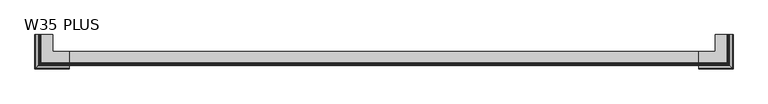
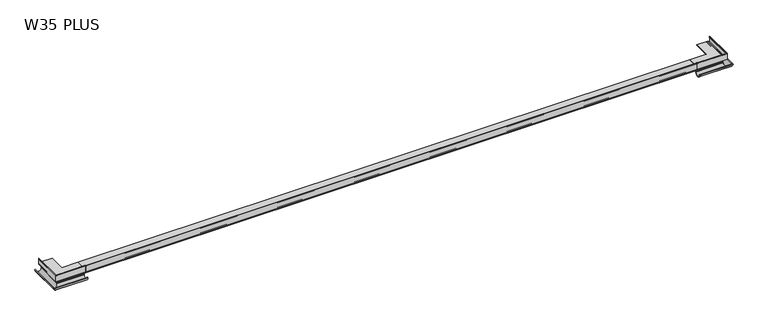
"""IFC4 building model written with IfcOpenShell, lengths in millimetres: proxy geometry, W35 PLUS Profil okapowy prosty z rynną : W35 PLUS."""

from ifc_helpers import new_model, si_unit, point, frame, frame_2d, origin, place, context, project, spatial, polyline, circle_curve, ellipse_curve, trimmed, segment, composite_curve, outline, extrude, source, transform, mapped, element, save
from ifc_brep_helpers import plane_surface, cylinder_surface, revolved_surface, advanced_brep


def w35_plus_573f0110(model_context):
    return source(origin(), model_context, "Body", "SolidModel", [
        advanced_brep(
        [(4906.833631, -6.5000001, -74.4470452), (4906.833631, -5.0999988, -73.0470438), (4906.833631, -5.0999988, -78.1662981), (4906.833631, -7.6128151, -80.5111711), (4906.833631, -8.1261224, -84.1635409), (4906.833631, -4.8412617, -82.7692004), (4906.833631, -5.621057, -84.7176262), (4906.833631, -8.427087, -86.3030013), (4906.833631, -58.1999995, -82.9410366), (4906.833631, -56.7240776, -84.8325307), (4906.833631, -9.7348852, -85.4606424), (4906.833631, -8.8685397, -79.7069515), (4906.833631, -6.5000001, -77.4112902), (5114.9597534, -8.1261224, -84.1635409), (5111.6748927, -4.8412617, -82.7692004), (5112.454688, -5.621057, -84.7176262), (5115.260718, -8.427087, -86.3030013), (5165.0336305, -58.1999995, -82.9410366), (5163.5577086, -56.7240776, -84.8325307), (5116.5685163, -9.7348852, -85.4606424), (5115.7021707, -8.8685397, -79.7069515), (5114.4464461, -7.6128151, -80.5111711), (5113.3336312, 200.0, -74.4470452), (5113.3336312, 200.0, -77.4112902), (5115.7021707, 200.0, -79.7069515), (5116.5685163, 200.0, -85.4606424), (5163.5577086, 200.0, -84.8325307), (5165.0336305, 200.0, -82.9410366), (5115.260718, 200.0, -86.3030013), (5112.454688, 200.0, -84.7176262), (5111.6748927, 200.0, -82.7692004), (5114.9597534, 200.0, -84.1635409), (5114.4464461, 200.0, -80.5111711), (5111.9336298, 200.0, -78.1662981), (5111.9336298, 200.0, -73.0470438), (5113.3336312, -6.5000001, -74.4470452), (5111.9336298, -5.0999988, -73.0470438), (5111.9336298, -5.0999988, -78.1662981), (5113.3336312, -6.5000001, -77.4112902)],
        [
            (0, 1),
            (1, 2),
            (2, 3),
            (3, 4),
            (4, 5),
            (5, 6),
            (6, 7),
            (7, 8, circle_curve(frame((4906.833631, -33.1999995, -82.9410366), z_axis=(-1.0, 0.0, 0.0), x_axis=(0.0, -1.0, 0.0)), 25.0)),
            (8, 9, circle_curve(frame((4906.833631, -56.2499995, -82.9410366), z_axis=(-1.0, 0.0, 0.0), x_axis=(0.0, -1.0, 0.0)), 1.95)),
            (9, 10, circle_curve(frame((4906.833631, -33.1999995, -82.9410366), z_axis=(1.0, 0.0, 0.0), x_axis=(0.0, -1.0, 0.0)), 23.6)),
            (10, 11),
            (11, 12),
            (12, 0),
            (4, 13),
            (13, 14),
            (14, 5),
            (14, 15),
            (15, 6),
            (15, 16),
            (16, 7),
            (16, 17, ellipse_curve(frame((5140.0336305, -33.1999995, -82.9410366), z_axis=(-0.7071067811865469, -0.707106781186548, 0.0), x_axis=(-0.7071067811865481, 0.7071067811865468, 0.0)), 35.3553391, 25.0)),
            (17, 8),
            (17, 18, ellipse_curve(frame((5163.0836305, -56.2499995, -82.9410366), z_axis=(-0.7071067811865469, -0.707106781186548, 0.0), x_axis=(-0.7071067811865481, 0.7071067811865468, 0.0)), 2.7577164, 1.95)),
            (18, 9),
            (18, 19, ellipse_curve(frame((5140.0336305, -33.1999995, -82.9410366), z_axis=(0.7071067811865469, 0.707106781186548, 0.0), x_axis=(0.7071067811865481, -0.7071067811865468, 0.0)), 33.3754401, 23.6)),
            (19, 10),
            (19, 20),
            (20, 11),
            (3, 21),
            (21, 13),
            (22, 23),
            (23, 24),
            (24, 25),
            (25, 26, circle_curve(frame((5140.0336305, 200.0, -82.9410366), z_axis=(0.0, -1.0, 0.0), x_axis=(1.0, 0.0, 0.0)), 23.6)),
            (26, 27, circle_curve(frame((5163.0836305, 200.0, -82.9410366), z_axis=(0.0, 1.0, 0.0), x_axis=(1.0, 0.0, 0.0)), 1.95)),
            (27, 28, circle_curve(frame((5140.0336305, 200.0, -82.9410366), z_axis=(0.0, 1.0, 0.0), x_axis=(1.0, 0.0, 0.0)), 25.0)),
            (28, 29),
            (29, 30),
            (30, 31),
            (31, 32),
            (32, 33),
            (33, 34),
            (34, 22),
            (13, 31),
            (30, 14),
            (29, 15),
            (28, 16),
            (27, 17),
            (26, 18),
            (25, 19),
            (24, 20),
            (21, 32),
            (0, 35),
            (35, 36),
            (36, 1),
            (36, 37),
            (37, 2),
            (37, 21),
            (20, 38),
            (38, 12),
            (38, 35),
            (35, 22),
            (34, 36),
            (33, 37),
            (23, 38),
        ],
        [
            plane_surface(frame((4906.833631, 0.0, -36.1934933), z_axis=(-1.0, 0.0, 0.0), x_axis=(0.0, 0.0, 1.0))),
            plane_surface(frame((4906.833631, -4.8412617, -82.7692004), z_axis=(0.0, -0.3907310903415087, 0.9205048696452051), x_axis=(1.0, 0.0, 0.0))),
            plane_surface(frame((4906.833631, -5.621057, -84.7176262), z_axis=(0.0, 0.9284068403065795, -0.37156525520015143), x_axis=(1.0, 0.0, 0.0))),
            plane_surface(frame((4906.833631, -8.427087, -86.3030013), z_axis=(0.0, 0.49190631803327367, -0.8706481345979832), x_axis=(1.0, 0.0, 0.0))),
            cylinder_surface(frame((4906.833631, -33.1999995, -82.9410366), z_axis=(-1.0, 0.0, 0.0), x_axis=(0.0, -1.0, 0.0)), 25.0),
            cylinder_surface(frame((4906.833631, -56.2499995, -82.9410366), z_axis=(-1.0, 0.0, 0.0), x_axis=(0.0, -1.0, 0.0)), 1.95),
            revolved_surface(polyline([(5163.633630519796, -56.7999995, -82.9410366), (4906.833631, -56.7999995, -82.9410366)]), (4906.833631, -33.1999995, -82.9410366), (1.0, 0.0, 0.0)),
            plane_surface(frame((4906.833631, -8.8685397, -79.7069515), z_axis=(0.0, -0.9888532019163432, 0.14889373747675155), x_axis=(1.0, 0.0, 0.0))),
            plane_surface(frame((4906.833631, -8.1261224, -84.1635409), z_axis=(0.0, 0.9902680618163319, -0.13917315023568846), x_axis=(1.0, 0.0, 0.0))),
            plane_surface(frame((5106.833631, 200.0, -36.1934933), z_axis=(0.0, 1.0, 0.0), x_axis=(0.0, 0.0, 1.0))),
            plane_surface(frame((5111.6748927, -4.8412617, -82.7692004), z_axis=(0.3907310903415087, 0.0, 0.9205048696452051), x_axis=(0.0, 1.0, 0.0))),
            plane_surface(frame((5112.454688, -5.621057, -84.7176262), z_axis=(-0.9284068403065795, 0.0, -0.37156525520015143), x_axis=(0.0, 1.0, 0.0))),
            plane_surface(frame((5115.260718, -8.427087, -86.3030013), z_axis=(-0.49190631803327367, 0.0, -0.8706481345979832), x_axis=(0.0, 1.0, 0.0))),
            cylinder_surface(frame((5140.0336305, 0.0, -82.9410366), z_axis=(0.0, -1.0, 0.0), x_axis=(1.0, 0.0, 0.0)), 25.0),
            cylinder_surface(frame((5163.0836305, 0.0, -82.9410366), z_axis=(0.0, -1.0, 0.0), x_axis=(1.0, 0.0, 0.0)), 1.95),
            revolved_surface(polyline([(5163.6336305, 200.0, -82.9410366), (5163.6336305, -56.79999951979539, -82.9410366)]), (5140.0336305, 0.0, -82.9410366), (0.0, 1.0, 0.0)),
            plane_surface(frame((5115.7021707, -8.8685397, -79.7069515), z_axis=(0.9888532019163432, 0.0, 0.14889373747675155), x_axis=(0.0, 1.0, 0.0))),
            plane_surface(frame((5114.9597534, -8.1261224, -84.1635409), z_axis=(-0.9902680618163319, 0.0, -0.13917315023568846), x_axis=(0.0, 1.0, 0.0))),
            plane_surface(frame((4906.833631, -5.0999988, -73.0470438), z_axis=(0.0, -0.7071067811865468, 0.7071067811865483), x_axis=(1.0, 0.0, 0.0))),
            plane_surface(frame((4906.833631, -5.0999988, -78.1662981), z_axis=(0.0, 1.0, 0.0), x_axis=(1.0, 0.0, 0.0))),
            plane_surface(frame((4906.833631, -7.6128151, -80.5111711), z_axis=(0.0, 0.6822525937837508, -0.7311165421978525), x_axis=(1.0, 0.0, 0.0))),
            plane_surface(frame((4906.833631, -6.5000001, -77.4112902), z_axis=(0.0, -0.6959732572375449, 0.7180677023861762), x_axis=(1.0, 0.0, 0.0))),
            plane_surface(frame((4906.833631, -6.5000001, -74.4470452), z_axis=(0.0, -1.0, 0.0), x_axis=(1.0, 0.0, 0.0))),
            plane_surface(frame((5111.9336298, -5.0999988, -73.0470438), z_axis=(0.7071067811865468, 0.0, 0.7071067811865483), x_axis=(0.0, 1.0, 0.0))),
            plane_surface(frame((5111.9336298, -5.0999988, -78.1662981), z_axis=(-1.0, 0.0, 0.0), x_axis=(0.0, 1.0, 0.0))),
            plane_surface(frame((5114.4464461, -7.6128151, -80.5111711), z_axis=(-0.6822525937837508, 0.0, -0.7311165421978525), x_axis=(0.0, 1.0, 0.0))),
            plane_surface(frame((5113.3336312, -6.5000001, -77.4112902), z_axis=(0.6959732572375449, 0.0, 0.7180677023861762), x_axis=(0.0, 1.0, 0.0))),
            plane_surface(frame((5113.3336312, -6.5000001, -74.4470452), z_axis=(1.0, 0.0, 0.0), x_axis=(0.0, 1.0, 0.0))),
        ],
        [
            (0, [[1, 2, 3, 4, 5, 6, 7, 8, 9, 10, 11, 12, 13]]),
            (1, [[14, 15, 16, -5]]),
            (2, [[-16, 17, 18, -6]]),
            (3, [[-18, 19, 20, -7]]),
            (4, [[-20, 21, 22, -8]]),
            (5, [[-22, 23, 24, -9]]),
            (6, [[-24, 25, 26, -10]]),
            (7, [[-26, 27, 28, -11]]),
            (8, [[29, 30, -14, -4]]),
            (9, [[31, 32, 33, 34, 35, 36, 37, 38, 39, 40, 41, 42, 43]]),
            (10, [[44, -39, 45, -15]]),
            (11, [[-45, -38, 46, -17]]),
            (12, [[-46, -37, 47, -19]]),
            (13, [[-47, -36, 48, -21]]),
            (14, [[-48, -35, 49, -23]]),
            (15, [[-49, -34, 50, -25]]),
            (16, [[-50, -33, 51, -27]]),
            (17, [[52, -40, -44, -30]]),
            (18, [[53, 54, 55, -1]]),
            (19, [[-55, 56, 57, -2]]),
            (20, [[-57, 58, -29, -3]]),
            (21, [[-28, 59, 60, -12]]),
            (22, [[-60, 61, -53, -13]]),
            (23, [[62, -43, 63, -54]]),
            (24, [[-63, -42, 64, -56]]),
            (25, [[-64, -41, -52, -58]]),
            (26, [[-51, -32, 65, -59]]),
            (27, [[-65, -31, -62, -61]]),
        ],
    ),
        advanced_brep(
        [(4906.833631, -26.8437498, -2.450713), (4906.833631, -27.5999998, -2.9802449), (4906.833631, -27.5999998, -6.1934933), (4906.833631, -25.0999998, -6.1934933), (4906.833631, -25.0999998, -7.8934933), (4906.833631, -27.5999998, -7.8934933), (4906.833631, -27.5999998, -42.9934932), (4906.833631, -8.1999998, -42.9934932), (4906.833631, -8.1999998, -37.6934933), (4906.833631, -11.2099998, -37.6934933), (4906.833631, -13.6099998, -39.4934933), (4906.833631, -15.1482735, -39.4934933), (4906.833631, -11.2099998, -36.1934933), (4906.833631, 73.5000001, -36.1934933), (4906.833631, 73.5000001, -37.8934933), (4906.833631, 0.0, -37.8934933), (4906.833631, 0.0, -41.0934933), (4906.833631, -1.5, -41.0934933), (4906.833631, -1.5, -37.8934933), (4906.833631, -6.5, -37.8934933), (4906.833631, -6.5, -77.3934933), (4906.833631, -8.1999998, -77.3934933), (4906.833631, -8.1999998, -44.6934934), (4906.833631, -12.8757357, -44.6934934), (4906.833631, -14.8999998, -46.7177573), (4906.833631, -14.8999998, -44.6934933), (4906.833631, -27.7999998, -44.6934933), (4906.833631, -27.7999998, -48.3470467), (4906.833631, -29.2999999, -49.8470466), (4906.833631, -29.2999999, -3.4509103), (4906.833631, -26.8437498, -1.1562238), (5133.6773808, 200.0, -2.450713), (5133.6773808, 200.0, -1.1562238), (5136.1336309, 200.0, -3.4509103), (5136.1336309, 200.0, -49.8470466), (5134.6336308, 200.0, -48.3470467), (5134.6336308, 200.0, -44.6934933), (5121.7336308, 200.0, -44.6934933), (5121.7336308, 200.0, -46.7177573), (5119.7093667, 200.0, -44.6934934), (5115.0336308, 200.0, -44.6934934), (5115.0336308, 200.0, -77.3934933), (5113.333631, 200.0, -77.3934933), (5113.333631, 200.0, -37.8934933), (5108.333631, 200.0, -37.8934933), (5108.333631, 200.0, -41.0934933), (5106.833631, 200.0, -41.0934933), (5106.833631, 200.0, -37.8934933), (5033.3336309, 200.0, -37.8934933), (5033.3336309, 200.0, -36.1934933), (5118.0436308, 200.0, -36.1934933), (5121.9819046, 200.0, -39.4934933), (5120.4436308, 200.0, -39.4934933), (5118.0436308, 200.0, -37.6934933), (5115.0336308, 200.0, -37.6934933), (5115.0336308, 200.0, -42.9934932), (5134.4336308, 200.0, -42.9934932), (5134.4336308, 200.0, -7.8934933), (5131.9336308, 200.0, -7.8934933), (5131.9336308, 200.0, -6.1934933), (5134.4336308, 200.0, -6.1934933), (5134.4336308, 200.0, -2.9802449), (5133.6773808, -26.8437498, -1.1562238), (5133.6773808, -26.8437498, -2.450713), (5136.1336309, -29.2999999, -3.4509103), (5136.1336309, -29.2999999, -49.8470466), (5134.6336308, -27.7999998, -48.3470467), (5134.6336308, -27.7999998, -44.6934933), (5121.7336308, -14.8999998, -44.6934933), (5121.7336308, -14.8999998, -46.7177573), (5119.7093667, -12.8757357, -44.6934934), (5115.0336308, -8.1999998, -44.6934934), (5115.0336308, -8.1999998, -77.3934933), (5113.333631, -6.5, -77.3934933), (5113.333631, -6.5, -37.8934933), (5108.333631, -1.5, -37.8934933), (5108.333631, -1.5, -41.0934933), (5106.833631, 0.0, -41.0934933), (5106.833631, 0.0, -37.8934933), (5033.3336309, 73.5000001, -37.8934933), (5033.3336309, 73.5000001, -36.1934933), (5118.0436308, -11.2099998, -36.1934933), (5121.9819046, -15.1482735, -39.4934933), (5120.4436308, -13.6099998, -39.4934933), (5118.0436308, -11.2099998, -37.6934933), (5115.0336308, -8.1999998, -37.6934933), (5115.0336308, -8.1999998, -42.9934932), (5134.4336308, -27.5999998, -42.9934932), (5134.4336308, -27.5999998, -7.8934933), (5131.9336308, -25.0999998, -7.8934933), (5131.9336308, -25.0999998, -6.1934933), (5134.4336308, -27.5999998, -6.1934933), (5134.4336308, -27.5999998, -2.9802449)],
        [
            (0, 1),
            (1, 2),
            (2, 3),
            (3, 4),
            (4, 5),
            (5, 6),
            (6, 7),
            (7, 8),
            (8, 9),
            (9, 10, circle_curve(frame((4906.833631, -11.2099998, -40.1934933), z_axis=(1.0, 0.0, 0.0), x_axis=(0.0, 0.0, 1.0)), 2.5)),
            (10, 11),
            (11, 12, circle_curve(frame((4906.833631, -11.2099998, -40.1934933), z_axis=(-1.0, 0.0, 0.0), x_axis=(0.0, -0.9715481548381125, 0.2368421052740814)), 4.0)),
            (12, 13),
            (13, 14),
            (14, 15),
            (15, 16),
            (16, 17),
            (17, 18),
            (18, 19),
            (19, 20),
            (20, 21),
            (21, 22),
            (22, 23),
            (23, 24),
            (24, 25),
            (25, 26),
            (26, 27),
            (27, 28),
            (28, 29),
            (29, 30, circle_curve(frame((4906.833631, -26.9999998, -3.4509103), z_axis=(-1.0, 0.0, 0.0), x_axis=(0.0, 1.0, 0.0)), 2.3000001)),
            (30, 0),
            (31, 32),
            (32, 33, circle_curve(frame((5133.8336308, 200.0, -3.4509103), z_axis=(0.0, 1.0, 0.0), x_axis=(-1.0, 0.0, 0.0)), 2.3000001)),
            (33, 34),
            (34, 35),
            (35, 36),
            (36, 37),
            (37, 38),
            (38, 39),
            (39, 40),
            (40, 41),
            (41, 42),
            (42, 43),
            (43, 44),
            (44, 45),
            (45, 46),
            (46, 47),
            (47, 48),
            (48, 49),
            (49, 50),
            (50, 51, circle_curve(frame((5118.0436308, 200.0, -40.1934933), z_axis=(0.0, 1.0, 0.0), x_axis=(0.9715481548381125, 0.0, 0.2368421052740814)), 4.0)),
            (51, 52),
            (52, 53, circle_curve(frame((5118.0436308, 200.0, -40.1934933), z_axis=(0.0, -1.0, 0.0), x_axis=(0.0, 0.0, 1.0)), 2.5)),
            (53, 54),
            (54, 55),
            (55, 56),
            (56, 57),
            (57, 58),
            (58, 59),
            (59, 60),
            (60, 61),
            (61, 31),
            (30, 62),
            (62, 63),
            (63, 0),
            (29, 64),
            (64, 62, ellipse_curve(frame((5133.8336308, -26.9999998, -3.4509103), z_axis=(-0.7071067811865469, -0.707106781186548, 0.0), x_axis=(-0.7071067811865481, 0.7071067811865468, 0.0)), 3.2526913, 2.3000001)),
            (28, 65),
            (65, 64),
            (27, 66),
            (66, 65),
            (26, 67),
            (67, 66),
            (25, 68),
            (68, 37),
            (36, 67),
            (24, 69),
            (69, 68),
            (23, 70),
            (70, 69),
            (22, 71),
            (71, 40),
            (39, 70),
            (21, 72),
            (72, 71),
            (20, 73),
            (73, 42),
            (41, 72),
            (19, 74),
            (74, 73),
            (18, 75),
            (75, 44),
            (43, 74),
            (17, 76),
            (76, 75),
            (16, 77),
            (77, 46),
            (45, 76),
            (15, 78),
            (78, 77),
            (14, 79),
            (79, 48),
            (47, 78),
            (13, 80),
            (80, 79),
            (12, 81),
            (81, 50),
            (49, 80),
            (11, 82),
            (82, 81, ellipse_curve(frame((5118.0436308, -11.2099998, -40.1934933), z_axis=(-0.7071067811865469, -0.707106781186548, 0.0), x_axis=(-0.7071067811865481, 0.7071067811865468, 0.0)), 5.6568542, 4.0)),
            (10, 83),
            (83, 52),
            (51, 82),
            (9, 84),
            (84, 83, ellipse_curve(frame((5118.0436308, -11.2099998, -40.1934933), z_axis=(0.7071067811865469, 0.707106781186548, 0.0), x_axis=(0.7071067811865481, -0.7071067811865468, 0.0)), 3.5355339, 2.5)),
            (8, 85),
            (85, 54),
            (53, 84),
            (7, 86),
            (86, 85),
            (6, 87),
            (87, 56),
            (55, 86),
            (5, 88),
            (88, 87),
            (4, 89),
            (89, 58),
            (57, 88),
            (3, 90),
            (90, 89),
            (2, 91),
            (91, 60),
            (59, 90),
            (1, 92),
            (92, 91),
            (63, 92),
            (62, 32),
            (31, 63),
            (64, 33),
            (65, 34),
            (66, 35),
            (69, 38),
            (92, 61),
        ],
        [
            plane_surface(frame((4906.833631, 0.0, -36.1934933), z_axis=(-1.0, 0.0, 0.0), x_axis=(0.0, 0.0, 1.0))),
            plane_surface(frame((5106.833631, 200.0, -36.1934933), z_axis=(0.0, 1.0, 0.0), x_axis=(0.0, 0.0, 1.0))),
            plane_surface(frame((4906.833631, -26.8437498, -2.450713), z_axis=(0.0, 1.0, 0.0), x_axis=(1.0, 0.0, 0.0))),
            cylinder_surface(frame((4906.833631, -26.9999998, -3.4509103), z_axis=(-1.0, 0.0, 0.0), x_axis=(0.0, 1.0, 0.0)), 2.3000001),
            plane_surface(frame((4906.833631, -29.2999999, -3.4509103), z_axis=(0.0, -1.0, 0.0), x_axis=(1.0, 0.0, 0.0))),
            plane_surface(frame((4906.833631, -29.2999999, -49.8470466), z_axis=(0.0, 0.7071067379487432, -0.7071068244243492), x_axis=(1.0, 0.0, 0.0))),
            plane_surface(frame((4906.833631, -27.7999998, -48.3470467), z_axis=(0.0, 1.0, 0.0), x_axis=(1.0, 0.0, 0.0))),
            plane_surface(frame((4906.833631, -27.7999998, -44.6934933), z_axis=(0.0, 0.0, -1.0), x_axis=(1.0, 0.0, 0.0))),
            plane_surface(frame((4906.833631, -14.8999998, -44.6934933), z_axis=(0.0, -1.0, 0.0), x_axis=(1.0, 0.0, 0.0))),
            plane_surface(frame((4906.833631, -14.8999998, -46.7177573), z_axis=(0.0, 0.7071067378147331, -0.7071068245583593), x_axis=(1.0, 0.0, 0.0))),
            plane_surface(frame((4906.833631, -12.8757357, -44.6934934), z_axis=(0.0, 0.0, -1.0), x_axis=(1.0, 0.0, 0.0))),
            plane_surface(frame((4906.833631, -8.1999998, -44.6934934), z_axis=(0.0, -1.0, 0.0), x_axis=(1.0, 0.0, 0.0))),
            plane_surface(frame((4906.833631, -8.1999998, -77.3934933), z_axis=(0.0, 0.0, -1.0), x_axis=(1.0, 0.0, 0.0))),
            plane_surface(frame((4906.833631, -6.5, -77.3934933), z_axis=(0.0, 1.0, 0.0), x_axis=(1.0, 0.0, 0.0))),
            plane_surface(frame((4906.833631, -6.5, -37.8934933), z_axis=(0.0, 0.0, -1.0), x_axis=(1.0, 0.0, 0.0))),
            plane_surface(frame((4906.833631, -1.5, -37.8934933), z_axis=(0.0, -1.0, 0.0), x_axis=(1.0, 0.0, 0.0))),
            plane_surface(frame((4906.833631, -1.5, -41.0934933), z_axis=(0.0, 0.0, -1.0), x_axis=(1.0, 0.0, 0.0))),
            plane_surface(frame((4906.833631, 0.0, -41.0934933), z_axis=(0.0, 1.0, 0.0), x_axis=(1.0, 0.0, 0.0))),
            plane_surface(frame((4906.833631, 0.0, -37.8934933), z_axis=(0.0, 0.0, -1.0), x_axis=(1.0, 0.0, 0.0))),
            plane_surface(frame((4906.833631, 73.5000001, -37.8934933), z_axis=(0.0, 1.0, 0.0), x_axis=(1.0, 0.0, 0.0))),
            plane_surface(frame((4906.833631, 73.5000001, -36.1934933), z_axis=(0.0, 0.0, 1.0), x_axis=(1.0, 0.0, 0.0))),
            cylinder_surface(frame((4906.833631, -11.2099998, -40.1934933), z_axis=(-1.0000000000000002, 0.0, 0.0), x_axis=(0.0, -0.9715481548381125, 0.2368421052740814)), 4.0),
            plane_surface(frame((4906.833631, -15.1482735, -39.4934933), z_axis=(0.0, 0.0, -1.0), x_axis=(1.0, 0.0, 0.0))),
            revolved_surface(polyline([(5120.543630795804, -11.2099998, -37.6934933), (4906.833631, -11.2099998, -37.6934933)]), (4906.833631, -11.2099998, -40.1934933), (1.0, 0.0, 0.0)),
            plane_surface(frame((4906.833631, -11.2099998, -37.6934933), z_axis=(0.0, 0.0, -1.0), x_axis=(1.0, 0.0, 0.0))),
            plane_surface(frame((4906.833631, -8.1999998, -37.6934933), z_axis=(0.0, -1.0, 0.0), x_axis=(1.0, 0.0, 0.0))),
            plane_surface(frame((4906.833631, -8.1999998, -42.9934932), z_axis=(0.0, 0.0, 1.0), x_axis=(1.0, 0.0, 0.0))),
            plane_surface(frame((4906.833631, -27.5999998, -42.9934932), z_axis=(0.0, 1.0, 0.0), x_axis=(1.0, 0.0, 0.0))),
            plane_surface(frame((4906.833631, -27.5999998, -7.8934933), z_axis=(0.0, 0.0, -1.0), x_axis=(1.0, 0.0, 0.0))),
            plane_surface(frame((4906.833631, -25.0999998, -7.8934933), z_axis=(0.0, 1.0, 0.0), x_axis=(1.0, 0.0, 0.0))),
            plane_surface(frame((4906.833631, -25.0999998, -6.1934933), z_axis=(0.0, 0.0, 1.0), x_axis=(1.0, 0.0, 0.0))),
            plane_surface(frame((4906.833631, -27.5999998, -6.1934933), z_axis=(0.0, 1.0, 0.0), x_axis=(1.0, 0.0, 0.0))),
            plane_surface(frame((4906.833631, -27.5999998, -2.9802449), z_axis=(0.0, 0.5735764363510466, -0.8191520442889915), x_axis=(1.0, 0.0, 0.0))),
            plane_surface(frame((5133.6773808, -26.8437498, -2.450713), z_axis=(-1.0, 0.0, 0.0), x_axis=(0.0, 1.0, 0.0))),
            cylinder_surface(frame((5133.8336308, 0.0, -3.4509103), z_axis=(0.0, -1.0, 0.0), x_axis=(-1.0, 0.0, 0.0)), 2.3000001),
            plane_surface(frame((5136.1336309, -29.2999999, -3.4509103), z_axis=(1.0, 0.0, 0.0), x_axis=(0.0, 1.0, 0.0))),
            plane_surface(frame((5136.1336309, -29.2999999, -49.8470466), z_axis=(-0.7071067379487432, 0.0, -0.7071068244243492), x_axis=(0.0, 1.0, 0.0))),
            plane_surface(frame((5134.6336308, -27.7999998, -48.3470467), z_axis=(-1.0, 0.0, 0.0), x_axis=(0.0, 1.0, 0.0))),
            plane_surface(frame((5121.7336308, -14.8999998, -44.6934933), z_axis=(1.0, 0.0, 0.0), x_axis=(0.0, 1.0, 0.0))),
            plane_surface(frame((5121.7336308, -14.8999998, -46.7177573), z_axis=(-0.7071067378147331, 0.0, -0.7071068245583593), x_axis=(0.0, 1.0, 0.0))),
            plane_surface(frame((5115.0336308, -8.1999998, -44.6934934), z_axis=(1.0, 0.0, 0.0), x_axis=(0.0, 1.0, 0.0))),
            plane_surface(frame((5113.333631, -6.5, -77.3934933), z_axis=(-1.0, 0.0, 0.0), x_axis=(0.0, 1.0, 0.0))),
            plane_surface(frame((5108.333631, -1.5, -37.8934933), z_axis=(1.0, 0.0, 0.0), x_axis=(0.0, 1.0, 0.0))),
            plane_surface(frame((5106.833631, 0.0, -41.0934933), z_axis=(-1.0, 0.0, 0.0), x_axis=(0.0, 1.0, 0.0))),
            plane_surface(frame((5033.3336309, 73.5000001, -37.8934933), z_axis=(-1.0, 0.0, 0.0), x_axis=(0.0, 1.0, 0.0))),
            cylinder_surface(frame((5118.0436308, 0.0, -40.1934933), z_axis=(0.0, -1.0000000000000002, 0.0), x_axis=(0.9715481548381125, 0.0, 0.2368421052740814)), 4.0),
            revolved_surface(polyline([(5118.0436308, 200.0, -37.6934933), (5118.0436308, -13.709999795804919, -37.6934933)]), (5118.0436308, 0.0, -40.1934933), (0.0, 1.0, 0.0)),
            plane_surface(frame((5115.0336308, -8.1999998, -37.6934933), z_axis=(1.0, 0.0, 0.0), x_axis=(0.0, 1.0, 0.0))),
            plane_surface(frame((5134.4336308, -27.5999998, -42.9934932), z_axis=(-1.0, 0.0, 0.0), x_axis=(0.0, 1.0, 0.0))),
            plane_surface(frame((5131.9336308, -25.0999998, -7.8934933), z_axis=(-1.0, 0.0, 0.0), x_axis=(0.0, 1.0, 0.0))),
            plane_surface(frame((5134.4336308, -27.5999998, -6.1934933), z_axis=(-1.0, 0.0, 0.0), x_axis=(0.0, 1.0, 0.0))),
            plane_surface(frame((5134.4336308, -27.5999998, -2.9802449), z_axis=(-0.5735764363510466, 0.0, -0.8191520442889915), x_axis=(0.0, 1.0, 0.0))),
        ],
        [
            (0, [[1, 2, 3, 4, 5, 6, 7, 8, 9, 10, 11, 12, 13, 14, 15, 16, 17, 18, 19, 20, 21, 22, 23, 24, 25, 26, 27, 28, 29, 30, 31]]),
            (1, [[32, 33, 34, 35, 36, 37, 38, 39, 40, 41, 42, 43, 44, 45, 46, 47, 48, 49, 50, 51, 52, 53, 54, 55, 56, 57, 58, 59, 60, 61, 62]]),
            (2, [[63, 64, 65, -31]]),
            (3, [[66, 67, -63, -30]]),
            (4, [[68, 69, -66, -29]]),
            (5, [[70, 71, -68, -28]]),
            (6, [[72, 73, -70, -27]]),
            (7, [[74, 75, -37, 76, -72, -26]]),
            (8, [[77, 78, -74, -25]]),
            (9, [[79, 80, -77, -24]]),
            (10, [[81, 82, -40, 83, -79, -23]]),
            (11, [[84, 85, -81, -22]]),
            (12, [[86, 87, -42, 88, -84, -21]]),
            (13, [[89, 90, -86, -20]]),
            (14, [[91, 92, -44, 93, -89, -19]]),
            (15, [[94, 95, -91, -18]]),
            (16, [[96, 97, -46, 98, -94, -17]]),
            (17, [[99, 100, -96, -16]]),
            (18, [[101, 102, -48, 103, -99, -15]]),
            (19, [[104, 105, -101, -14]]),
            (20, [[106, 107, -50, 108, -104, -13]]),
            (21, [[109, 110, -106, -12]]),
            (22, [[111, 112, -52, 113, -109, -11]]),
            (23, [[114, 115, -111, -10]]),
            (24, [[116, 117, -54, 118, -114, -9]]),
            (25, [[119, 120, -116, -8]]),
            (26, [[121, 122, -56, 123, -119, -7]]),
            (27, [[124, 125, -121, -6]]),
            (28, [[126, 127, -58, 128, -124, -5]]),
            (29, [[129, 130, -126, -4]]),
            (30, [[131, 132, -60, 133, -129, -3]]),
            (31, [[134, 135, -131, -2]]),
            (32, [[-65, 136, -134, -1]]),
            (33, [[137, -32, 138, -64]]),
            (34, [[139, -33, -137, -67]]),
            (35, [[140, -34, -139, -69]]),
            (36, [[141, -35, -140, -71]]),
            (37, [[-76, -36, -141, -73]]),
            (38, [[142, -38, -75, -78]]),
            (39, [[-83, -39, -142, -80]]),
            (40, [[-88, -41, -82, -85]]),
            (41, [[-93, -43, -87, -90]]),
            (42, [[-98, -45, -92, -95]]),
            (43, [[-103, -47, -97, -100]]),
            (44, [[-108, -49, -102, -105]]),
            (45, [[-113, -51, -107, -110]]),
            (46, [[-118, -53, -112, -115]]),
            (47, [[-123, -55, -117, -120]]),
            (48, [[-128, -57, -122, -125]]),
            (49, [[-133, -59, -127, -130]]),
            (50, [[143, -61, -132, -135]]),
            (51, [[-138, -62, -143, -136]]),
        ],
    ),
        advanced_brep(
        [(200.0, -6.5000001, -74.4470452), (200.0, -6.5000001, -77.4112902), (200.0, -8.8685397, -79.7069515), (200.0, -9.7348852, -85.4606424), (200.0, -56.7240776, -84.8325307), (200.0, -58.1999995, -82.9410366), (200.0, -8.427087, -86.3030013), (200.0, -5.621057, -84.7176262), (200.0, -4.8412617, -82.7692004), (200.0, -8.1261224, -84.1635409), (200.0, -7.6128151, -80.5111711), (200.0, -5.0999988, -78.1662981), (200.0, -5.0999988, -73.0470438), (-4.8412617, -4.8412617, -82.7692004), (-8.1261224, -8.1261224, -84.1635409), (-5.621057, -5.621057, -84.7176262), (-8.427087, -8.427087, -86.3030013), (-58.1999995, -58.1999995, -82.9410366), (-56.7240776, -56.7240776, -84.8325307), (-9.7348852, -9.7348852, -85.4606424), (-8.8685397, -8.8685397, -79.7069515), (-7.6128151, -7.6128151, -80.5111711), (-6.5000001, 200.0, -74.4470452), (-5.0999988, 200.0, -73.0470438), (-5.0999988, 200.0, -78.1662981), (-7.6128151, 200.0, -80.5111711), (-8.1261224, 200.0, -84.1635409), (-4.8412617, 200.0, -82.7692004), (-5.621057, 200.0, -84.7176262), (-8.427087, 200.0, -86.3030013), (-58.1999995, 200.0, -82.9410366), (-56.7240776, 200.0, -84.8325307), (-9.7348852, 200.0, -85.4606424), (-8.8685397, 200.0, -79.7069515), (-6.5000001, 200.0, -77.4112902), (-5.0999988, -5.0999988, -73.0470438), (-6.5000001, -6.5000001, -74.4470452), (-5.0999988, -5.0999988, -78.1662981), (-6.5000001, -6.5000001, -77.4112902)],
        [
            (0, 1),
            (1, 2),
            (2, 3),
            (3, 4, circle_curve(frame((200.0, -33.1999995, -82.9410366), z_axis=(-1.0, 0.0, 0.0), x_axis=(0.0, -1.0, 0.0)), 23.6)),
            (4, 5, circle_curve(frame((200.0, -56.2499995, -82.9410366), z_axis=(1.0, 0.0, 0.0), x_axis=(0.0, -1.0, 0.0)), 1.95)),
            (5, 6, circle_curve(frame((200.0, -33.1999995, -82.9410366), z_axis=(1.0, 0.0, 0.0), x_axis=(0.0, -1.0, 0.0)), 25.0)),
            (6, 7),
            (7, 8),
            (8, 9),
            (9, 10),
            (10, 11),
            (11, 12),
            (12, 0),
            (8, 13),
            (13, 14),
            (14, 9),
            (7, 15),
            (15, 13),
            (6, 16),
            (16, 15),
            (5, 17),
            (17, 16, ellipse_curve(frame((-33.1999995, -33.1999995, -82.9410366), z_axis=(0.7071067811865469, -0.707106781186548, 0.0), x_axis=(0.7071067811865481, 0.7071067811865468, 0.0)), 35.3553391, 25.0)),
            (4, 18),
            (18, 17, ellipse_curve(frame((-56.2499995, -56.2499995, -82.9410366), z_axis=(0.7071067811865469, -0.707106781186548, 0.0), x_axis=(0.7071067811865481, 0.7071067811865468, 0.0)), 2.7577164, 1.95)),
            (3, 19),
            (19, 18, ellipse_curve(frame((-33.1999995, -33.1999995, -82.9410366), z_axis=(-0.7071067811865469, 0.707106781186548, 0.0), x_axis=(-0.7071067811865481, -0.7071067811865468, 0.0)), 33.3754401, 23.6)),
            (2, 20),
            (20, 19),
            (14, 21),
            (21, 10),
            (22, 23),
            (23, 24),
            (24, 25),
            (25, 26),
            (26, 27),
            (27, 28),
            (28, 29),
            (29, 30, circle_curve(frame((-33.1999995, 200.0, -82.9410366), z_axis=(0.0, 1.0, 0.0), x_axis=(-1.0, 0.0, 0.0)), 25.0)),
            (30, 31, circle_curve(frame((-56.2499995, 200.0, -82.9410366), z_axis=(0.0, 1.0, 0.0), x_axis=(-1.0, 0.0, 0.0)), 1.95)),
            (31, 32, circle_curve(frame((-33.1999995, 200.0, -82.9410366), z_axis=(0.0, -1.0, 0.0), x_axis=(-1.0, 0.0, 0.0)), 23.6)),
            (32, 33),
            (33, 34),
            (34, 22),
            (13, 27),
            (26, 14),
            (15, 28),
            (16, 29),
            (17, 30),
            (18, 31),
            (19, 32),
            (20, 33),
            (25, 21),
            (12, 35),
            (35, 36),
            (36, 0),
            (11, 37),
            (37, 35),
            (21, 37),
            (1, 38),
            (38, 20),
            (36, 38),
            (35, 23),
            (22, 36),
            (37, 24),
            (38, 34),
        ],
        [
            plane_surface(frame((200.0, 0.0, -36.1934933), z_axis=(1.0, 0.0, 0.0), x_axis=(0.0, 0.0, 1.0))),
            plane_surface(frame((200.0, -4.8412617, -82.7692004), z_axis=(0.0, -0.3907310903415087, 0.9205048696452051), x_axis=(-1.0, 0.0, 0.0))),
            plane_surface(frame((200.0, -5.621057, -84.7176262), z_axis=(0.0, 0.9284068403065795, -0.37156525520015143), x_axis=(-1.0, 0.0, 0.0))),
            plane_surface(frame((200.0, -8.427087, -86.3030013), z_axis=(0.0, 0.49190631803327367, -0.8706481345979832), x_axis=(-1.0, 0.0, 0.0))),
            cylinder_surface(frame((200.0, -33.1999995, -82.9410366), z_axis=(1.0, 0.0, 0.0), x_axis=(0.0, -1.0, 0.0)), 25.0),
            cylinder_surface(frame((200.0, -56.2499995, -82.9410366), z_axis=(1.0, 0.0, 0.0), x_axis=(0.0, -1.0, 0.0)), 1.95),
            revolved_surface(polyline([(-56.79999951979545, -56.7999995, -82.9410366), (200.0, -56.7999995, -82.9410366)]), (200.0, -33.1999995, -82.9410366), (-1.0, 0.0, 0.0)),
            plane_surface(frame((200.0, -8.8685397, -79.7069515), z_axis=(0.0, -0.9888532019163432, 0.14889373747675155), x_axis=(-1.0, 0.0, 0.0))),
            plane_surface(frame((200.0, -8.1261224, -84.1635409), z_axis=(0.0, 0.9902680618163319, -0.13917315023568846), x_axis=(-1.0, 0.0, 0.0))),
            plane_surface(frame((0.0, 200.0, -36.1934933), z_axis=(0.0, 1.0, 0.0), x_axis=(0.0, 0.0, 1.0))),
            plane_surface(frame((-4.8412617, -4.8412617, -82.7692004), z_axis=(-0.3907310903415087, 0.0, 0.9205048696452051), x_axis=(0.0, 1.0, 0.0))),
            plane_surface(frame((-5.621057, -5.621057, -84.7176262), z_axis=(0.9284068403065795, 0.0, -0.37156525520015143), x_axis=(0.0, 1.0, 0.0))),
            plane_surface(frame((-8.427087, -8.427087, -86.3030013), z_axis=(0.49190631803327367, 0.0, -0.8706481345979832), x_axis=(0.0, 1.0, 0.0))),
            cylinder_surface(frame((-33.1999995, 0.0, -82.9410366), z_axis=(0.0, -1.0, 0.0), x_axis=(-1.0, 0.0, 0.0)), 25.0),
            cylinder_surface(frame((-56.2499995, 0.0, -82.9410366), z_axis=(0.0, -1.0, 0.0), x_axis=(-1.0, 0.0, 0.0)), 1.95),
            revolved_surface(polyline([(-56.7999995, 200.0, -82.9410366), (-56.7999995, -56.79999951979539, -82.9410366)]), (-33.1999995, 0.0, -82.9410366), (0.0, 1.0, 0.0)),
            plane_surface(frame((-8.8685397, -8.8685397, -79.7069515), z_axis=(-0.9888532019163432, 0.0, 0.14889373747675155), x_axis=(0.0, 1.0, 0.0))),
            plane_surface(frame((-8.1261224, -8.1261224, -84.1635409), z_axis=(0.9902680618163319, 0.0, -0.13917315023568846), x_axis=(0.0, 1.0, 0.0))),
            plane_surface(frame((200.0, -5.0999988, -73.0470438), z_axis=(0.0, -0.7071067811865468, 0.7071067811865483), x_axis=(-1.0, 0.0, 0.0))),
            plane_surface(frame((200.0, -5.0999988, -78.1662981), z_axis=(0.0, 1.0, 0.0), x_axis=(-1.0, 0.0, 0.0))),
            plane_surface(frame((200.0, -7.6128151, -80.5111711), z_axis=(0.0, 0.6822525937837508, -0.7311165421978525), x_axis=(-1.0, 0.0, 0.0))),
            plane_surface(frame((200.0, -6.5000001, -77.4112902), z_axis=(0.0, -0.6959732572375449, 0.7180677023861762), x_axis=(-1.0, 0.0, 0.0))),
            plane_surface(frame((200.0, -6.5000001, -74.4470452), z_axis=(0.0, -1.0, 0.0), x_axis=(-1.0, 0.0, 0.0))),
            plane_surface(frame((-5.0999988, -5.0999988, -73.0470438), z_axis=(-0.7071067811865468, 0.0, 0.7071067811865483), x_axis=(0.0, 1.0, 0.0))),
            plane_surface(frame((-5.0999988, -5.0999988, -78.1662981), z_axis=(1.0, 0.0, 0.0), x_axis=(0.0, 1.0, 0.0))),
            plane_surface(frame((-7.6128151, -7.6128151, -80.5111711), z_axis=(0.6822525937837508, 0.0, -0.7311165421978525), x_axis=(0.0, 1.0, 0.0))),
            plane_surface(frame((-6.5000001, -6.5000001, -77.4112902), z_axis=(-0.6959732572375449, 0.0, 0.7180677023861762), x_axis=(0.0, 1.0, 0.0))),
            plane_surface(frame((-6.5000001, -6.5000001, -74.4470452), z_axis=(-1.0, 0.0, 0.0), x_axis=(0.0, 1.0, 0.0))),
        ],
        [
            (0, [[1, 2, 3, 4, 5, 6, 7, 8, 9, 10, 11, 12, 13]]),
            (1, [[-9, 14, 15, 16]]),
            (2, [[-8, 17, 18, -14]]),
            (3, [[-7, 19, 20, -17]]),
            (4, [[-6, 21, 22, -19]]),
            (5, [[-5, 23, 24, -21]]),
            (6, [[-4, 25, 26, -23]]),
            (7, [[-3, 27, 28, -25]]),
            (8, [[-10, -16, 29, 30]]),
            (9, [[31, 32, 33, 34, 35, 36, 37, 38, 39, 40, 41, 42, 43]]),
            (10, [[-15, 44, -35, 45]]),
            (11, [[-18, 46, -36, -44]]),
            (12, [[-20, 47, -37, -46]]),
            (13, [[-22, 48, -38, -47]]),
            (14, [[-24, 49, -39, -48]]),
            (15, [[-26, 50, -40, -49]]),
            (16, [[-28, 51, -41, -50]]),
            (17, [[-29, -45, -34, 52]]),
            (18, [[-13, 53, 54, 55]]),
            (19, [[-12, 56, 57, -53]]),
            (20, [[-11, -30, 58, -56]]),
            (21, [[-2, 59, 60, -27]]),
            (22, [[-1, -55, 61, -59]]),
            (23, [[-54, 62, -31, 63]]),
            (24, [[-57, 64, -32, -62]]),
            (25, [[-58, -52, -33, -64]]),
            (26, [[-60, 65, -42, -51]]),
            (27, [[-61, -63, -43, -65]]),
        ],
    ),
        advanced_brep(
        [(200.0, -26.8437498, -2.450713), (200.0, -26.8437498, -1.1562238), (200.0, -29.2999999, -3.4509103), (200.0, -29.2999999, -49.8470466), (200.0, -27.7999998, -48.3470467), (200.0, -27.7999998, -44.6934933), (200.0, -14.8999998, -44.6934933), (200.0, -14.8999998, -46.7177573), (200.0, -12.8757357, -44.6934934), (200.0, -8.1999998, -44.6934934), (200.0, -8.1999998, -77.3934933), (200.0, -6.5, -77.3934933), (200.0, -6.5, -37.8934933), (200.0, -1.5, -37.8934933), (200.0, -1.5, -41.0934933), (200.0, 0.0, -41.0934933), (200.0, 0.0, -37.8934933), (200.0, 73.5000001, -37.8934933), (200.0, 73.5000001, -36.1934933), (200.0, -11.2099998, -36.1934933), (200.0, -15.1482735, -39.4934933), (200.0, -13.6099998, -39.4934933), (200.0, -11.2099998, -37.6934933), (200.0, -8.1999998, -37.6934933), (200.0, -8.1999998, -42.9934932), (200.0, -27.5999998, -42.9934932), (200.0, -27.5999998, -7.8934933), (200.0, -25.0999998, -7.8934933), (200.0, -25.0999998, -6.1934933), (200.0, -27.5999998, -6.1934933), (200.0, -27.5999998, -2.9802449), (-26.8437498, 200.0, -2.450713), (-27.5999998, 200.0, -2.9802449), (-27.5999998, 200.0, -6.1934933), (-25.0999998, 200.0, -6.1934933), (-25.0999998, 200.0, -7.8934933), (-27.5999998, 200.0, -7.8934933), (-27.5999998, 200.0, -42.9934932), (-8.1999998, 200.0, -42.9934932), (-8.1999998, 200.0, -37.6934933), (-11.2099998, 200.0, -37.6934933), (-13.6099998, 200.0, -39.4934933), (-15.1482735, 200.0, -39.4934933), (-11.2099998, 200.0, -36.1934933), (73.5000001, 200.0, -36.1934933), (73.5000001, 200.0, -37.8934933), (0.0, 200.0, -37.8934933), (0.0, 200.0, -41.0934933), (-1.5, 200.0, -41.0934933), (-1.5, 200.0, -37.8934933), (-6.5, 200.0, -37.8934933), (-6.5, 200.0, -77.3934933), (-8.1999998, 200.0, -77.3934933), (-8.1999998, 200.0, -44.6934934), (-12.8757357, 200.0, -44.6934934), (-14.8999998, 200.0, -46.7177573), (-14.8999998, 200.0, -44.6934933), (-27.7999998, 200.0, -44.6934933), (-27.7999998, 200.0, -48.3470467), (-29.2999999, 200.0, -49.8470466), (-29.2999999, 200.0, -3.4509103), (-26.8437498, 200.0, -1.1562238), (-26.8437498, -26.8437498, -2.450713), (-26.8437498, -26.8437498, -1.1562238), (-29.2999999, -29.2999999, -3.4509103), (-29.2999999, -29.2999999, -49.8470466), (-27.7999998, -27.7999998, -48.3470467), (-27.7999998, -27.7999998, -44.6934933), (-14.8999998, -14.8999998, -44.6934933), (-14.8999998, -14.8999998, -46.7177573), (-12.8757357, -12.8757357, -44.6934934), (-8.1999998, -8.1999998, -44.6934934), (-8.1999998, -8.1999998, -77.3934933), (-6.5, -6.5, -77.3934933), (-6.5, -6.5, -37.8934933), (-1.5, -1.5, -37.8934933), (-1.5, -1.5, -41.0934933), (0.0, 0.0, -41.0934933), (0.0, 0.0, -37.8934933), (73.5000001, 73.5000001, -37.8934933), (73.5000001, 73.5000001, -36.1934933), (-11.2099998, -11.2099998, -36.1934933), (-15.1482735, -15.1482735, -39.4934933), (-13.6099998, -13.6099998, -39.4934933), (-11.2099998, -11.2099998, -37.6934933), (-8.1999998, -8.1999998, -37.6934933), (-8.1999998, -8.1999998, -42.9934932), (-27.5999998, -27.5999998, -42.9934932), (-27.5999998, -27.5999998, -7.8934933), (-25.0999998, -25.0999998, -7.8934933), (-25.0999998, -25.0999998, -6.1934933), (-27.5999998, -27.5999998, -6.1934933), (-27.5999998, -27.5999998, -2.9802449)],
        [
            (0, 1),
            (1, 2, circle_curve(frame((200.0, -26.9999998, -3.4509103), z_axis=(1.0, 0.0, 0.0), x_axis=(0.0, 1.0, 0.0)), 2.3000001)),
            (2, 3),
            (3, 4),
            (4, 5),
            (5, 6),
            (6, 7),
            (7, 8),
            (8, 9),
            (9, 10),
            (10, 11),
            (11, 12),
            (12, 13),
            (13, 14),
            (14, 15),
            (15, 16),
            (16, 17),
            (17, 18),
            (18, 19),
            (19, 20, circle_curve(frame((200.0, -11.2099998, -40.1934933), z_axis=(1.0, 0.0, 0.0), x_axis=(0.0, -0.9715481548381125, 0.2368421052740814)), 4.0)),
            (20, 21),
            (21, 22, circle_curve(frame((200.0, -11.2099998, -40.1934933), z_axis=(-1.0, 0.0, 0.0), x_axis=(0.0, 0.0, 1.0)), 2.5)),
            (22, 23),
            (23, 24),
            (24, 25),
            (25, 26),
            (26, 27),
            (27, 28),
            (28, 29),
            (29, 30),
            (30, 0),
            (31, 32),
            (32, 33),
            (33, 34),
            (34, 35),
            (35, 36),
            (36, 37),
            (37, 38),
            (38, 39),
            (39, 40),
            (40, 41, circle_curve(frame((-11.2099998, 200.0, -40.1934933), z_axis=(0.0, -1.0, 0.0), x_axis=(0.0, 0.0, 1.0)), 2.5)),
            (41, 42),
            (42, 43, circle_curve(frame((-11.2099998, 200.0, -40.1934933), z_axis=(0.0, 1.0, 0.0), x_axis=(-0.9715481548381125, 0.0, 0.2368421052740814)), 4.0)),
            (43, 44),
            (44, 45),
            (45, 46),
            (46, 47),
            (47, 48),
            (48, 49),
            (49, 50),
            (50, 51),
            (51, 52),
            (52, 53),
            (53, 54),
            (54, 55),
            (55, 56),
            (56, 57),
            (57, 58),
            (58, 59),
            (59, 60),
            (60, 61, circle_curve(frame((-26.9999998, 200.0, -3.4509103), z_axis=(0.0, 1.0, 0.0), x_axis=(1.0, 0.0, 0.0)), 2.3000001)),
            (61, 31),
            (0, 62),
            (62, 63),
            (63, 1),
            (63, 64, ellipse_curve(frame((-26.9999998, -26.9999998, -3.4509103), z_axis=(0.7071067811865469, -0.707106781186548, 0.0), x_axis=(0.7071067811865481, 0.7071067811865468, 0.0)), 3.2526913, 2.3000001)),
            (64, 2),
            (64, 65),
            (65, 3),
            (65, 66),
            (66, 4),
            (66, 67),
            (67, 5),
            (67, 57),
            (56, 68),
            (68, 6),
            (68, 69),
            (69, 7),
            (69, 70),
            (70, 8),
            (70, 54),
            (53, 71),
            (71, 9),
            (71, 72),
            (72, 10),
            (72, 52),
            (51, 73),
            (73, 11),
            (73, 74),
            (74, 12),
            (74, 50),
            (49, 75),
            (75, 13),
            (75, 76),
            (76, 14),
            (76, 48),
            (47, 77),
            (77, 15),
            (77, 78),
            (78, 16),
            (78, 46),
            (45, 79),
            (79, 17),
            (79, 80),
            (80, 18),
            (80, 44),
            (43, 81),
            (81, 19),
            (81, 82, ellipse_curve(frame((-11.2099998, -11.2099998, -40.1934933), z_axis=(0.7071067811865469, -0.707106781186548, 0.0), x_axis=(0.7071067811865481, 0.7071067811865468, 0.0)), 5.6568542, 4.0)),
            (82, 20),
            (82, 42),
            (41, 83),
            (83, 21),
            (83, 84, ellipse_curve(frame((-11.2099998, -11.2099998, -40.1934933), z_axis=(-0.7071067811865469, 0.707106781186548, 0.0), x_axis=(-0.7071067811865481, -0.7071067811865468, 0.0)), 3.5355339, 2.5)),
            (84, 22),
            (84, 40),
            (39, 85),
            (85, 23),
            (85, 86),
            (86, 24),
            (86, 38),
            (37, 87),
            (87, 25),
            (87, 88),
            (88, 26),
            (88, 36),
            (35, 89),
            (89, 27),
            (89, 90),
            (90, 28),
            (90, 34),
            (33, 91),
            (91, 29),
            (91, 92),
            (92, 30),
            (92, 62),
            (62, 31),
            (61, 63),
            (60, 64),
            (59, 65),
            (58, 66),
            (55, 69),
            (32, 92),
        ],
        [
            plane_surface(frame((200.0, 0.0, -36.1934933), z_axis=(1.0, 0.0, 0.0), x_axis=(0.0, 0.0, 1.0))),
            plane_surface(frame((0.0, 200.0, -36.1934933), z_axis=(0.0, 1.0, 0.0), x_axis=(0.0, 0.0, 1.0))),
            plane_surface(frame((200.0, -26.8437498, -2.450713), z_axis=(0.0, 1.0, 0.0), x_axis=(-1.0, 0.0, 0.0))),
            cylinder_surface(frame((200.0, -26.9999998, -3.4509103), z_axis=(1.0, 0.0, 0.0), x_axis=(0.0, 1.0, 0.0)), 2.3000001),
            plane_surface(frame((200.0, -29.2999999, -3.4509103), z_axis=(0.0, -1.0, 0.0), x_axis=(-1.0, 0.0, 0.0))),
            plane_surface(frame((200.0, -29.2999999, -49.8470466), z_axis=(0.0, 0.7071067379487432, -0.7071068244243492), x_axis=(-1.0, 0.0, 0.0))),
            plane_surface(frame((200.0, -27.7999998, -48.3470467), z_axis=(0.0, 1.0, 0.0), x_axis=(-1.0, 0.0, 0.0))),
            plane_surface(frame((200.0, -27.7999998, -44.6934933), z_axis=(0.0, 0.0, -1.0), x_axis=(-1.0, 0.0, 0.0))),
            plane_surface(frame((200.0, -14.8999998, -44.6934933), z_axis=(0.0, -1.0, 0.0), x_axis=(-1.0, 0.0, 0.0))),
            plane_surface(frame((200.0, -14.8999998, -46.7177573), z_axis=(0.0, 0.7071067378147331, -0.7071068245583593), x_axis=(-1.0, 0.0, 0.0))),
            plane_surface(frame((200.0, -12.8757357, -44.6934934), z_axis=(0.0, 0.0, -1.0), x_axis=(-1.0, 0.0, 0.0))),
            plane_surface(frame((200.0, -8.1999998, -44.6934934), z_axis=(0.0, -1.0, 0.0), x_axis=(-1.0, 0.0, 0.0))),
            plane_surface(frame((200.0, -8.1999998, -77.3934933), z_axis=(0.0, 0.0, -1.0), x_axis=(-1.0, 0.0, 0.0))),
            plane_surface(frame((200.0, -6.5, -77.3934933), z_axis=(0.0, 1.0, 0.0), x_axis=(-1.0, 0.0, 0.0))),
            plane_surface(frame((200.0, -6.5, -37.8934933), z_axis=(0.0, 0.0, -1.0), x_axis=(-1.0, 0.0, 0.0))),
            plane_surface(frame((200.0, -1.5, -37.8934933), z_axis=(0.0, -1.0, 0.0), x_axis=(-1.0, 0.0, 0.0))),
            plane_surface(frame((200.0, -1.5, -41.0934933), z_axis=(0.0, 0.0, -1.0), x_axis=(-1.0, 0.0, 0.0))),
            plane_surface(frame((200.0, 0.0, -41.0934933), z_axis=(0.0, 1.0, 0.0), x_axis=(-1.0, 0.0, 0.0))),
            plane_surface(frame((200.0, 0.0, -37.8934933), z_axis=(0.0, 0.0, -1.0), x_axis=(-1.0, 0.0, 0.0))),
            plane_surface(frame((200.0, 73.5000001, -37.8934933), z_axis=(0.0, 1.0, 0.0), x_axis=(-1.0, 0.0, 0.0))),
            plane_surface(frame((200.0, 73.5000001, -36.1934933), z_axis=(0.0, 0.0, 1.0), x_axis=(-1.0, 0.0, 0.0))),
            cylinder_surface(frame((200.0, -11.2099998, -40.1934933), z_axis=(1.0000000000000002, 0.0, 0.0), x_axis=(0.0, -0.9715481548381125, 0.2368421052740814)), 4.0),
            plane_surface(frame((200.0, -15.1482735, -39.4934933), z_axis=(0.0, 0.0, -1.0), x_axis=(-1.0, 0.0, 0.0))),
            revolved_surface(polyline([(-13.709999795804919, -11.2099998, -37.6934933), (200.0, -11.2099998, -37.6934933)]), (200.0, -11.2099998, -40.1934933), (-1.0, 0.0, 0.0)),
            plane_surface(frame((200.0, -11.2099998, -37.6934933), z_axis=(0.0, 0.0, -1.0), x_axis=(-1.0, 0.0, 0.0))),
            plane_surface(frame((200.0, -8.1999998, -37.6934933), z_axis=(0.0, -1.0, 0.0), x_axis=(-1.0, 0.0, 0.0))),
            plane_surface(frame((200.0, -8.1999998, -42.9934932), z_axis=(0.0, 0.0, 1.0), x_axis=(-1.0, 0.0, 0.0))),
            plane_surface(frame((200.0, -27.5999998, -42.9934932), z_axis=(0.0, 1.0, 0.0), x_axis=(-1.0, 0.0, 0.0))),
            plane_surface(frame((200.0, -27.5999998, -7.8934933), z_axis=(0.0, 0.0, -1.0), x_axis=(-1.0, 0.0, 0.0))),
            plane_surface(frame((200.0, -25.0999998, -7.8934933), z_axis=(0.0, 1.0, 0.0), x_axis=(-1.0, 0.0, 0.0))),
            plane_surface(frame((200.0, -25.0999998, -6.1934933), z_axis=(0.0, 0.0, 1.0), x_axis=(-1.0, 0.0, 0.0))),
            plane_surface(frame((200.0, -27.5999998, -6.1934933), z_axis=(0.0, 1.0, 0.0), x_axis=(-1.0, 0.0, 0.0))),
            plane_surface(frame((200.0, -27.5999998, -2.9802449), z_axis=(0.0, 0.5735764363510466, -0.8191520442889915), x_axis=(-1.0, 0.0, 0.0))),
            plane_surface(frame((-26.8437498, -26.8437498, -2.450713), z_axis=(1.0, 0.0, 0.0), x_axis=(0.0, 1.0, 0.0))),
            cylinder_surface(frame((-26.9999998, 0.0, -3.4509103), z_axis=(0.0, -1.0, 0.0), x_axis=(1.0, 0.0, 0.0)), 2.3000001),
            plane_surface(frame((-29.2999999, -29.2999999, -3.4509103), z_axis=(-1.0, 0.0, 0.0), x_axis=(0.0, 1.0, 0.0))),
            plane_surface(frame((-29.2999999, -29.2999999, -49.8470466), z_axis=(0.7071067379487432, 0.0, -0.7071068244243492), x_axis=(0.0, 1.0, 0.0))),
            plane_surface(frame((-27.7999998, -27.7999998, -48.3470467), z_axis=(1.0, 0.0, 0.0), x_axis=(0.0, 1.0, 0.0))),
            plane_surface(frame((-14.8999998, -14.8999998, -44.6934933), z_axis=(-1.0, 0.0, 0.0), x_axis=(0.0, 1.0, 0.0))),
            plane_surface(frame((-14.8999998, -14.8999998, -46.7177573), z_axis=(0.7071067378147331, 0.0, -0.7071068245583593), x_axis=(0.0, 1.0, 0.0))),
            plane_surface(frame((-8.1999998, -8.1999998, -44.6934934), z_axis=(-1.0, 0.0, 0.0), x_axis=(0.0, 1.0, 0.0))),
            plane_surface(frame((-6.5, -6.5, -77.3934933), z_axis=(1.0, 0.0, 0.0), x_axis=(0.0, 1.0, 0.0))),
            plane_surface(frame((-1.5, -1.5, -37.8934933), z_axis=(-1.0, 0.0, 0.0), x_axis=(0.0, 1.0, 0.0))),
            plane_surface(frame((0.0, 0.0, -41.0934933), z_axis=(1.0, 0.0, 0.0), x_axis=(0.0, 1.0, 0.0))),
            plane_surface(frame((73.5000001, 73.5000001, -37.8934933), z_axis=(1.0, 0.0, 0.0), x_axis=(0.0, 1.0, 0.0))),
            cylinder_surface(frame((-11.2099998, 0.0, -40.1934933), z_axis=(0.0, -1.0000000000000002, 0.0), x_axis=(-0.9715481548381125, 0.0, 0.2368421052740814)), 4.0),
            revolved_surface(polyline([(-11.2099998, 200.0, -37.6934933), (-11.2099998, -13.709999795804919, -37.6934933)]), (-11.2099998, 0.0, -40.1934933), (0.0, 1.0, 0.0)),
            plane_surface(frame((-8.1999998, -8.1999998, -37.6934933), z_axis=(-1.0, 0.0, 0.0), x_axis=(0.0, 1.0, 0.0))),
            plane_surface(frame((-27.5999998, -27.5999998, -42.9934932), z_axis=(1.0, 0.0, 0.0), x_axis=(0.0, 1.0, 0.0))),
            plane_surface(frame((-25.0999998, -25.0999998, -7.8934933), z_axis=(1.0, 0.0, 0.0), x_axis=(0.0, 1.0, 0.0))),
            plane_surface(frame((-27.5999998, -27.5999998, -6.1934933), z_axis=(1.0, 0.0, 0.0), x_axis=(0.0, 1.0, 0.0))),
            plane_surface(frame((-27.5999998, -27.5999998, -2.9802449), z_axis=(0.5735764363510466, 0.0, -0.8191520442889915), x_axis=(0.0, 1.0, 0.0))),
        ],
        [
            (0, [[1, 2, 3, 4, 5, 6, 7, 8, 9, 10, 11, 12, 13, 14, 15, 16, 17, 18, 19, 20, 21, 22, 23, 24, 25, 26, 27, 28, 29, 30, 31]]),
            (1, [[32, 33, 34, 35, 36, 37, 38, 39, 40, 41, 42, 43, 44, 45, 46, 47, 48, 49, 50, 51, 52, 53, 54, 55, 56, 57, 58, 59, 60, 61, 62]]),
            (2, [[-1, 63, 64, 65]]),
            (3, [[-2, -65, 66, 67]]),
            (4, [[-3, -67, 68, 69]]),
            (5, [[-4, -69, 70, 71]]),
            (6, [[-5, -71, 72, 73]]),
            (7, [[-6, -73, 74, -57, 75, 76]]),
            (8, [[-7, -76, 77, 78]]),
            (9, [[-8, -78, 79, 80]]),
            (10, [[-9, -80, 81, -54, 82, 83]]),
            (11, [[-10, -83, 84, 85]]),
            (12, [[-11, -85, 86, -52, 87, 88]]),
            (13, [[-12, -88, 89, 90]]),
            (14, [[-13, -90, 91, -50, 92, 93]]),
            (15, [[-14, -93, 94, 95]]),
            (16, [[-15, -95, 96, -48, 97, 98]]),
            (17, [[-16, -98, 99, 100]]),
            (18, [[-17, -100, 101, -46, 102, 103]]),
            (19, [[-18, -103, 104, 105]]),
            (20, [[-19, -105, 106, -44, 107, 108]]),
            (21, [[-20, -108, 109, 110]]),
            (22, [[-21, -110, 111, -42, 112, 113]]),
            (23, [[-22, -113, 114, 115]]),
            (24, [[-23, -115, 116, -40, 117, 118]]),
            (25, [[-24, -118, 119, 120]]),
            (26, [[-25, -120, 121, -38, 122, 123]]),
            (27, [[-26, -123, 124, 125]]),
            (28, [[-27, -125, 126, -36, 127, 128]]),
            (29, [[-28, -128, 129, 130]]),
            (30, [[-29, -130, 131, -34, 132, 133]]),
            (31, [[-30, -133, 134, 135]]),
            (32, [[-31, -135, 136, -63]]),
            (33, [[-64, 137, -62, 138]]),
            (34, [[-66, -138, -61, 139]]),
            (35, [[-68, -139, -60, 140]]),
            (36, [[-70, -140, -59, 141]]),
            (37, [[-72, -141, -58, -74]]),
            (38, [[-77, -75, -56, 142]]),
            (39, [[-79, -142, -55, -81]]),
            (40, [[-84, -82, -53, -86]]),
            (41, [[-89, -87, -51, -91]]),
            (42, [[-94, -92, -49, -96]]),
            (43, [[-99, -97, -47, -101]]),
            (44, [[-104, -102, -45, -106]]),
            (45, [[-109, -107, -43, -111]]),
            (46, [[-114, -112, -41, -116]]),
            (47, [[-119, -117, -39, -121]]),
            (48, [[-124, -122, -37, -126]]),
            (49, [[-129, -127, -35, -131]]),
            (50, [[-134, -132, -33, 143]]),
            (51, [[-136, -143, -32, -137]]),
        ],
    ),
        extrude(outline(composite_curve([segment(polyline([(-26.9999998, -2.4508786), (-27.7562498, -2.9804106), (-27.7562498, -6.1936589), (-25.2562498, -6.1936589), (-25.2562498, -7.8936589), (-27.7562498, -7.8936589), (-27.7562498, -42.9936588), (-8.3562498, -42.9936588), (-8.3562498, -37.6936589), (-11.3662498, -37.6936589)]), True, "CONTINUOUS"), segment(trimmed(circle_curve(frame_2d((-11.3662498, -40.1936589)), 2.5), [point((-11.3662498, -37.6936589))], [point((-13.7662498, -39.4936589))], True, "CARTESIAN"), True, "CONTINUOUS"), segment(polyline([(-13.7662498, -39.4936589), (-15.3045235, -39.4936589)]), True, "CONTINUOUS"), segment(trimmed(circle_curve(frame_2d((-11.3662498, -40.1936589)), 4.0), [point((-15.3045235, -39.4936589))], [point((-11.3662498, -36.1936589))], False, "CARTESIAN"), True, "CONTINUOUS"), segment(polyline([(-11.3662498, -36.1936589), (73.3437501, -36.1936589), (73.3437501, -37.8936589), (-0.15625, -37.8936589), (-0.15625, -41.0936589), (-1.65625, -41.0936589), (-1.65625, -37.8936589), (-6.65625, -37.8936589), (-6.65625, -77.3936589), (-8.3562498, -77.3936589), (-8.3562498, -44.6936591), (-13.0319857, -44.6936591), (-15.0562498, -46.7179229), (-15.0562498, -44.6936589), (-27.9562498, -44.6936589), (-27.9562498, -48.3472123), (-29.4562499, -49.8472122), (-29.4562499, -3.451076)]), True, "CONTINUOUS"), segment(trimmed(circle_curve(frame_2d((-27.1562498, -3.451076)), 2.3000001), [point((-29.4562499, -3.451076))], [point((-26.9999998, -1.1563894))], False, "CARTESIAN"), True, "CONTINUOUS"), segment(polyline([(-26.9999998, -1.1563894), (-26.9999998, -2.4508786)]), True, "CONTINUOUS")], self_intersect=False)), frame((200.0, 0.0, 0.0), z_axis=(1.0, 0.0, 0.0), x_axis=(0.0, 1.0, 0.0)), (0.0, 0.0, 1.0), 4706.833631),
    ])


if __name__ == "__main__":
    model = new_model("IFC4")
    model_context = context("Model", 3, world=origin())
    ifc_project = project(units=[si_unit("LENGTHUNIT", "METRE", prefix="MILLI")], contexts=[model_context])
    site = spatial("IfcSite", under=ifc_project)
    building = spatial("IfcBuilding", under=site)
    placement = place(None, origin())
    w35_plus_shape = w35_plus_573f0110(model_context)
    element("IfcBuildingElementProxy", 1, Name="W35 PLUS Profil okapowy prosty z rynną : W35 PLUS", ObjectType="W35 PLUS Profil okapowy prosty z rynną : W35 PLUS", at=placement, inside=building, context=model_context, shape_type="MappedRepresentation", body=[
        mapped(w35_plus_shape, transform((0.0, 0.0, 0.0), x_axis=(1.0, 0.0, 0.0), y_axis=(0.0, 1.0, 0.0), z_axis=(0.0, 0.0, 1.0))),
    ])
    save(model, "model.ifc")
